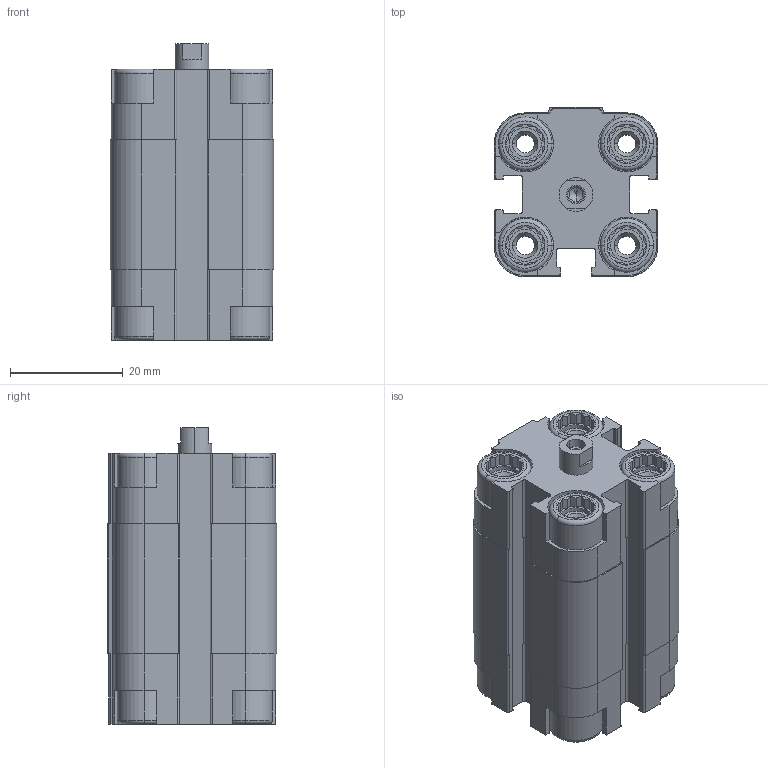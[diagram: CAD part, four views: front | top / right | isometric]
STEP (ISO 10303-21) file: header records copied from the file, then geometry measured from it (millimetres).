
FILE_DESCRIPTION (( 'STEP AP203' ), '1' );
FILE_NAME ('CDVU12-10F.STEP', '2020-03-30T14:51:32', ( '' ), ( '' ), 'SwSTEP 2.0', 'SolidWorks 2019', '' );
FILE_SCHEMA (( 'CONFIG_CONTROL_DESIGN' ));
Length unit declared in the file: millimetre
Products named in the file (1): CDVU12-10F
Bounding box: 29 x 30 x 52.5 mm (x, y, z)
Volume: 29711.5 mm3; surface area: 15052.4 mm2
Topology: 2 solids, 2 shells, 553 faces, 1474 edges, 959 vertices
Faces by surface type: plane 333, cylinder 158, cone 46, torus 16
Entity records: 17385 total; most frequent: CARTESIAN_POINT 3557, ORIENTED_EDGE 2936, DIRECTION 2776, EDGE_CURVE 1468, VERTEX_POINT 959, AXIS2_PLACEMENT_3D 946, LINE 884, VECTOR 884
